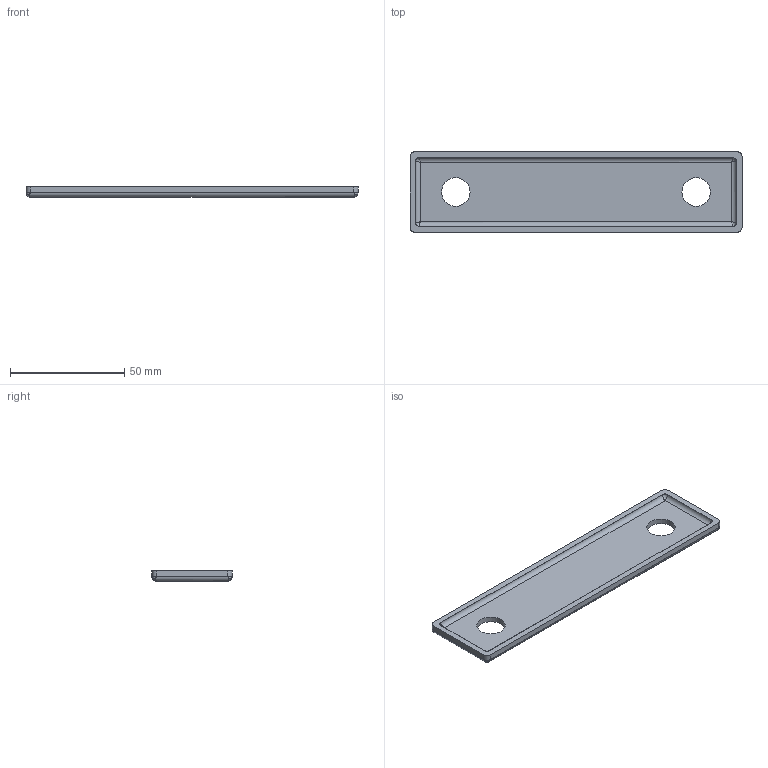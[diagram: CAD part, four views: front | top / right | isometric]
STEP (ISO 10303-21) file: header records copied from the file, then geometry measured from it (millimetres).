
FILE_DESCRIPTION(/* description */ (''),/* implementation_level */ '2;1');
FILE_NAME(/* name */ 'C:\Users\skipr\OneDrive\Рабочий стол\Пластина Хаски 2,5мм 105.step',/* time_stamp */ '2025-03-20T19:50:29+03:00',/* author */ ('skipr'),/* organization */ ('Unknown'),/* preprocessor_version */ 'ST-DEVELOPER v18.1',/* originating_system */ 'Autodesk Manufacturing Data Exchange Utility2021.0.0.910102',/* authorisation */ '');
FILE_SCHEMA (('AUTOMOTIVE_DESIGN { 1 0 10303 214 3 1 1 }'));
Length unit declared in the file: millimetre
Products named in the file (1): partANN::DOCUMENT
Bounding box: 145 x 35 x 4.5 mm (x, y, z)
Volume: 13794.1 mm3; surface area: 11527.9 mm2
Topology: 1 solids, 1 shells, 45 faces, 114 edges, 64 vertices
Faces by surface type: cylinder 22, plane 15, bspline 8
Full cylindrical faces by diameter (mm): 12.5 x2
Entity records: 1749 total; most frequent: CARTESIAN_POINT 724, ORIENTED_EDGE 212, DIRECTION 198, EDGE_CURVE 106, AXIS2_PLACEMENT_3D 74, VERTEX_POINT 64, EDGE_LOOP 50, LINE 50
